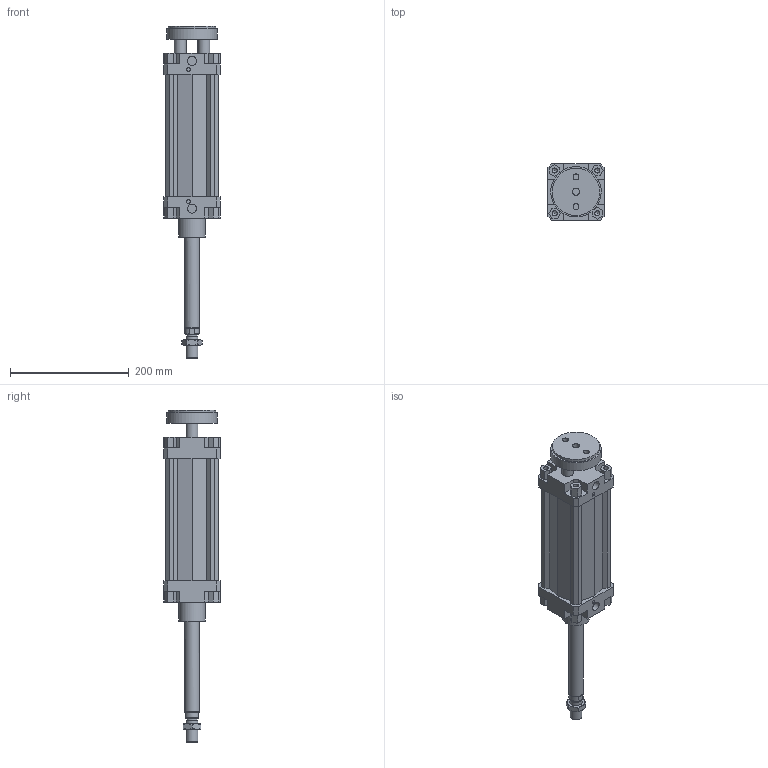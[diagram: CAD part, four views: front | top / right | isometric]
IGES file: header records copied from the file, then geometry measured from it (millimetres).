
Global section: file name: 132#_080_0150_02; native system: Autodesk Inventor 2014; preprocessor: unknown; author: A. Manieri; date: 20161006.162352; units: millimetre
Bounding box: 95 x 95 x 560 mm (x, y, z)
Volume: 1606728 mm3; surface area: 302716.4 mm2
Topology: 3 solids, 3 shells, 220 faces, 589 edges, 397 vertices
Faces by surface type: bspline 220
